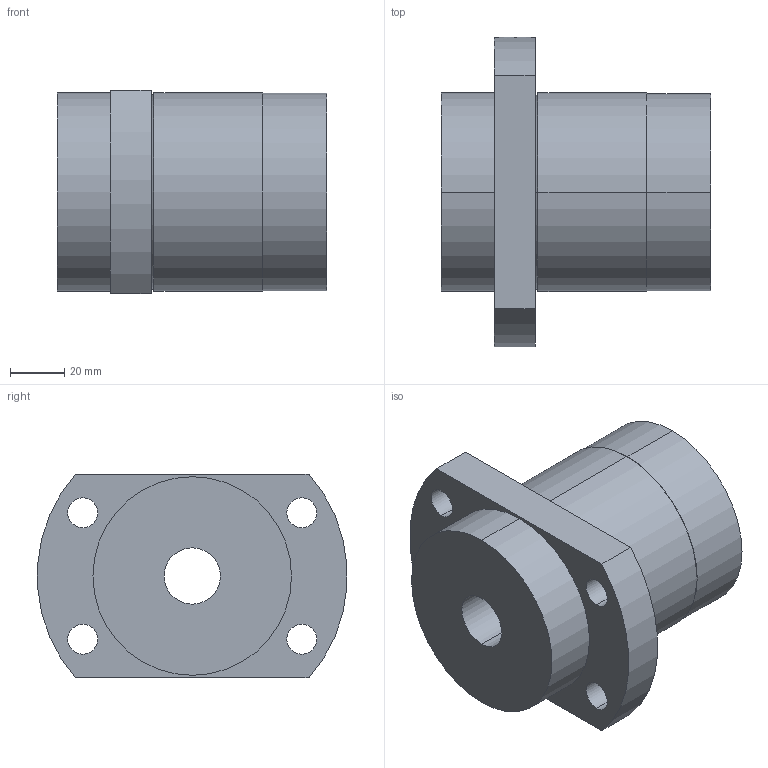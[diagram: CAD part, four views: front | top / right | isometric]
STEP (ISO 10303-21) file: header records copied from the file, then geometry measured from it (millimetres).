
FILE_DESCRIPTION (( 'STEP AP214' ), '1' );
FILE_NAME ('SFYR4040-3.6.STEP', '2022-03-09T05:36:15', ( '' ), ( '' ), 'SwSTEP 2.0', 'SolidWorks 2017', '' );
FILE_SCHEMA (( 'AUTOMOTIVE_DESIGN' ));
Length unit declared in the file: millimetre
Products named in the file (1): SFYR4040-3.6
Bounding box: 99 x 113.82 x 75 mm (x, y, z)
Volume: 429351.6 mm3; surface area: 47636.7 mm2
Topology: 1 solids, 1 shells, 33 faces, 78 edges, 49 vertices
Faces by surface type: cylinder 20, plane 7, cone 4, torus 2
Entity records: 1088 total; most frequent: CARTESIAN_POINT 221, DIRECTION 186, ORIENTED_EDGE 152, AXIS2_PLACEMENT_3D 78, EDGE_CURVE 76, VERTEX_POINT 49, EDGE_LOOP 47, CIRCLE 44
